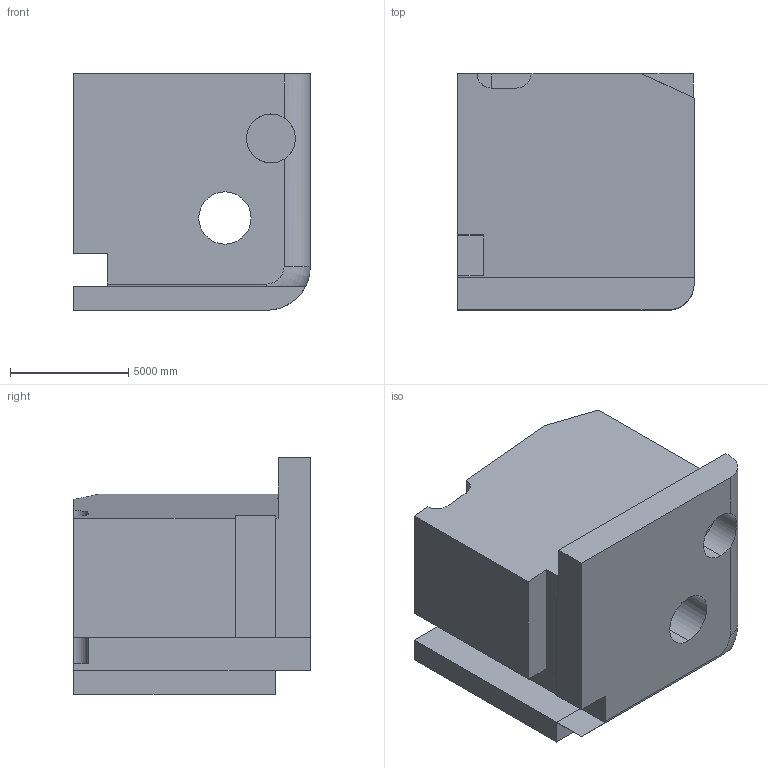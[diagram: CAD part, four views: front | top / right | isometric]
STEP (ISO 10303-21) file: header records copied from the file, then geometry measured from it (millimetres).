
FILE_DESCRIPTION (( 'STEP AP203' ), '1' );
FILE_NAME ('1974.STEP', '2022-08-23T10:08:59', ( 'user' ), ( '' ), 'SwSTEP 2.0', 'SolidWorks 2021', '' );
FILE_SCHEMA (( 'CONFIG_CONTROL_DESIGN' ));
Length unit declared in the file: centimetre
Products named in the file (1): 1974
Bounding box: 10000 x 10000 x 10000 mm (x, y, z)
Volume: 711824553867.3 mm3; surface area: 648411271.3 mm2
Topology: 1 solids, 1 shells, 34 faces, 101 edges, 67 vertices
Faces by surface type: plane 24, cylinder 9, torus 1
Entity records: 1398 total; most frequent: CARTESIAN_POINT 389, ORIENTED_EDGE 202, DIRECTION 189, EDGE_CURVE 101, VECTOR 73, LINE 73, VERTEX_POINT 67, AXIS2_PLACEMENT_3D 58
